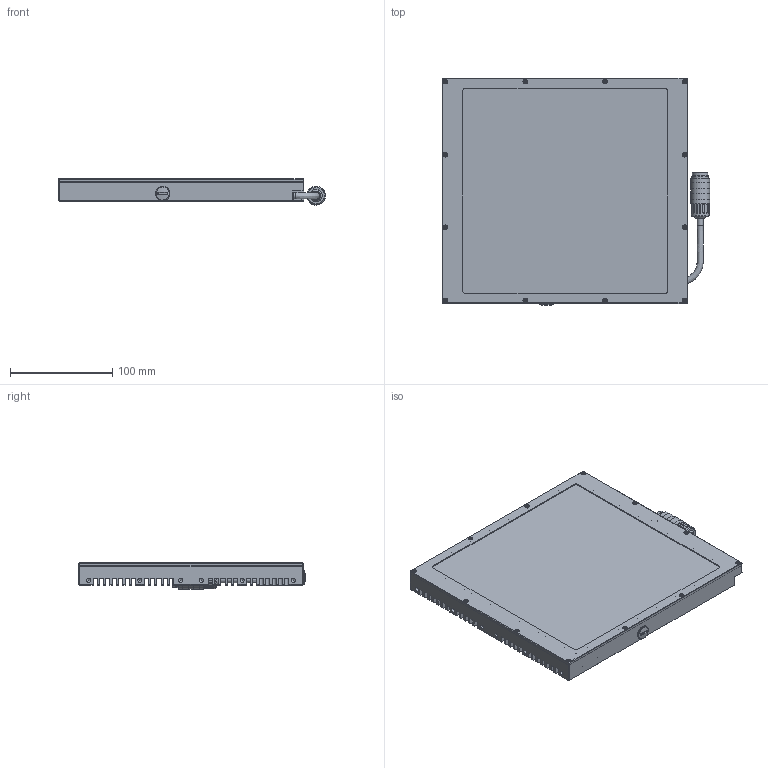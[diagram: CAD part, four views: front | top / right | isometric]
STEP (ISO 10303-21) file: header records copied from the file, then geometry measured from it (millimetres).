
FILE_DESCRIPTION(/* description */ ('CAx-IF Rec.Pracs.---Representation and Presentation of Product Manufacturing Information (PMI)---4.0---2014-10-13','CAx-IF Rec.Pracs.---3D Tessellated Geometry---0.4---2014-09-14','2;1'),/* implementation_level */ '2;1');
FILE_NAME(/* name */ 'LG2020-LG2020FL-V02',/* time_stamp */ '2019-12-03T10:50:22+01:00',/* author */ (''),/* organization */ ('iiM AG'),/* preprocessor_version */ 'ST-DEVELOPER v16.7',/* originating_system */ 'DEX',/* authorisation */ $);
FILE_SCHEMA (('AP242_MANAGED_MODEL_BASED_3D_ENGINEERING_MIM_LF { 1 0 10303 442 1 1 4 }'));
Length unit declared in the file: millimetre
Products named in the file (1): LG2020-V02_MO
Bounding box: 261.29 x 221.95 x 25.79 mm (x, y, z)
Volume: 523975.5 mm3; surface area: 330554.2 mm2
Topology: 3 solids, 16 shells, 1210 faces, 3258 edges, 2096 vertices
Faces by surface type: plane 556, cylinder 419, cone 188, bspline 18, torus 16, sphere 13
Full cylindrical faces by diameter (mm): 1 x12, 1.567 x24, 2 x12, 2.1 x8, 2.11 x4, 2.459 x4, 2.6 x4, 3.8 x12, 4.134 x54, 6 x2, 6.2 x1, 8 x1, 9 x1, 11 x3, 11.89 x1, 14 x1, 15 x1, 16 x1, 17.5 x1, 18.5 x3, 18.6 x2, 34.5 x1, 35 x1, 36 x1
Entity records: 49222 total; most frequent: CARTESIAN_POINT 13221, ORIENTED_EDGE 5528, DIRECTION 5425, EDGE_CURVE 2764, AXIS2_PLACEMENT_3D 1988, VERTEX_POINT 1953, FACE_BOUND 1613, EDGE_LOOP 1562
